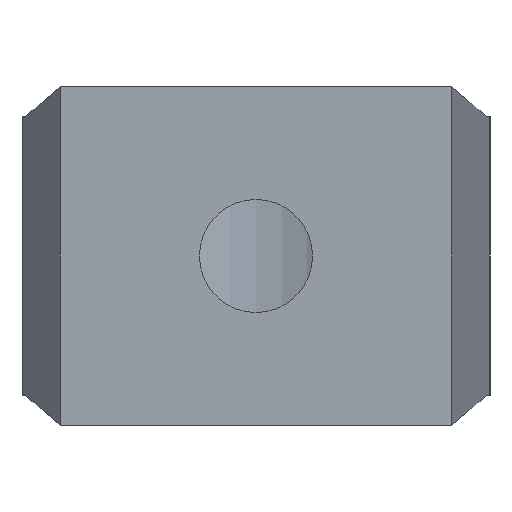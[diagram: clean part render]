
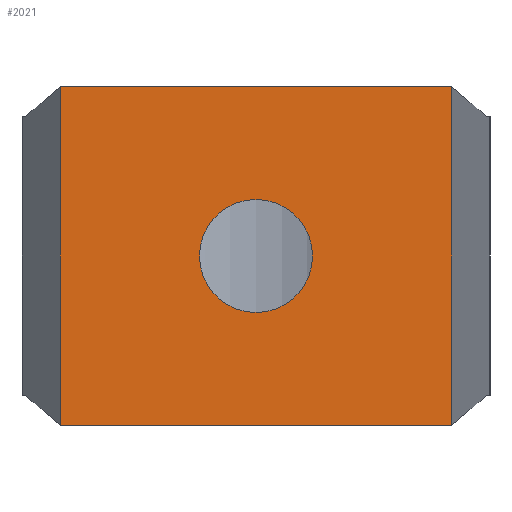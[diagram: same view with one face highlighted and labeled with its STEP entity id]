
A CAD part, front view. The second image highlights one B-rep face of the part: STEP entity #2021.
In plain terms, the highlighted planar face has unit normal (0, -1, 0).
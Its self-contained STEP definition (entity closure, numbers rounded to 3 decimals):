
#33 = VECTOR ( 'NONE', #3278, 1000. ) ;
#317 = CARTESIAN_POINT ( 'NONE',  ( 11.25, 0., -9.75 ) ) ;
#378 = VERTEX_POINT ( 'NONE', #1918 ) ;
#392 = ORIENTED_EDGE ( 'NONE', *, *, #909, .F. ) ;
#424 = CARTESIAN_POINT ( 'NONE',  ( 0., 0., -3.25 ) ) ;
#439 = VERTEX_POINT ( 'NONE', #2351 ) ;
#450 = DIRECTION ( 'NONE',  ( 0., 1., 0. ) ) ;
#502 = EDGE_CURVE ( 'NONE', #680, #924, #1086, .T. ) ;
#597 = LINE ( 'NONE', #3391, #1224 ) ;
#628 = CARTESIAN_POINT ( 'NONE',  ( 0., 0., 9.75 ) ) ;
#680 = VERTEX_POINT ( 'NONE', #424 ) ;
#755 = CARTESIAN_POINT ( 'NONE',  ( 0., 0., 0. ) ) ;
#774 = CARTESIAN_POINT ( 'NONE',  ( 0., 0., 0. ) ) ;
#826 = ORIENTED_EDGE ( 'NONE', *, *, #502, .T. ) ;
#853 = VECTOR ( 'NONE', #3299, 1000. ) ;
#909 = EDGE_CURVE ( 'NONE', #1662, #2924, #597, .T. ) ;
#924 = VERTEX_POINT ( 'NONE', #1581 ) ;
#1086 = CIRCLE ( 'NONE', #3356, 3.25 ) ;
#1133 = CARTESIAN_POINT ( 'NONE',  ( 11.25, 0., 9.75 ) ) ;
#1193 = VECTOR ( 'NONE', #2043, 1000. ) ;
#1224 = VECTOR ( 'NONE', #1279, 1000. ) ;
#1240 = EDGE_CURVE ( 'NONE', #378, #1662, #1766, .T. ) ;
#1279 = DIRECTION ( 'NONE',  ( -1., 0., 0. ) ) ;
#1443 = CARTESIAN_POINT ( 'NONE',  ( -11.25, 0., 9.75 ) ) ;
#1581 = CARTESIAN_POINT ( 'NONE',  ( 0., 0., 3.25 ) ) ;
#1662 = VERTEX_POINT ( 'NONE', #317 ) ;
#1693 = ORIENTED_EDGE ( 'NONE', *, *, #2326, .T. ) ;
#1695 = DIRECTION ( 'NONE',  ( 0., 0., 1. ) ) ;
#1766 = LINE ( 'NONE', #1133, #853 ) ;
#1858 = CARTESIAN_POINT ( 'NONE',  ( -11.25, 0., -9.75 ) ) ;
#1871 = DIRECTION ( 'NONE',  ( 1., 0., 0. ) ) ;
#1918 = CARTESIAN_POINT ( 'NONE',  ( 11.25, 0., 9.75 ) ) ;
#2021 = ADVANCED_FACE ( 'NONE', ( #2427, #2029 ), #2084, .T. ) ;
#2025 = ORIENTED_EDGE ( 'NONE', *, *, #1240, .F. ) ;
#2029 = FACE_OUTER_BOUND ( 'NONE', #2523, .T. ) ;
#2043 = DIRECTION ( 'NONE',  ( -1., 0., 0. ) ) ;
#2072 = LINE ( 'NONE', #1443, #33 ) ;
#2084 = PLANE ( 'NONE',  #2240 ) ;
#2157 = DIRECTION ( 'NONE',  ( 0., 0., 1. ) ) ;
#2240 = AXIS2_PLACEMENT_3D ( 'NONE', #628, #3061, #1871 ) ;
#2264 = EDGE_CURVE ( 'NONE', #924, #680, #2896, .T. ) ;
#2326 = EDGE_CURVE ( 'NONE', #378, #439, #3287, .T. ) ;
#2351 = CARTESIAN_POINT ( 'NONE',  ( -11.25, 0., 9.75 ) ) ;
#2427 = FACE_BOUND ( 'NONE', #3268, .T. ) ;
#2523 = EDGE_LOOP ( 'NONE', ( #392, #2025, #1693, #2728 ) ) ;
#2635 = AXIS2_PLACEMENT_3D ( 'NONE', #755, #450, #1695 ) ;
#2728 = ORIENTED_EDGE ( 'NONE', *, *, #3138, .T. ) ;
#2896 = CIRCLE ( 'NONE', #2635, 3.25 ) ;
#2921 = ORIENTED_EDGE ( 'NONE', *, *, #2264, .T. ) ;
#2924 = VERTEX_POINT ( 'NONE', #1858 ) ;
#3061 = DIRECTION ( 'NONE',  ( 0., -1., 0. ) ) ;
#3138 = EDGE_CURVE ( 'NONE', #439, #2924, #2072, .T. ) ;
#3268 = EDGE_LOOP ( 'NONE', ( #2921, #826 ) ) ;
#3270 = DIRECTION ( 'NONE',  ( 0., 1., 0. ) ) ;
#3278 = DIRECTION ( 'NONE',  ( 0., 0., -1. ) ) ;
#3287 = LINE ( 'NONE', #3597, #1193 ) ;
#3299 = DIRECTION ( 'NONE',  ( 0., 0., -1. ) ) ;
#3356 = AXIS2_PLACEMENT_3D ( 'NONE', #774, #3270, #2157 ) ;
#3391 = CARTESIAN_POINT ( 'NONE',  ( 0., 0., -9.75 ) ) ;
#3597 = CARTESIAN_POINT ( 'NONE',  ( 0., 0., 9.75 ) ) ;
